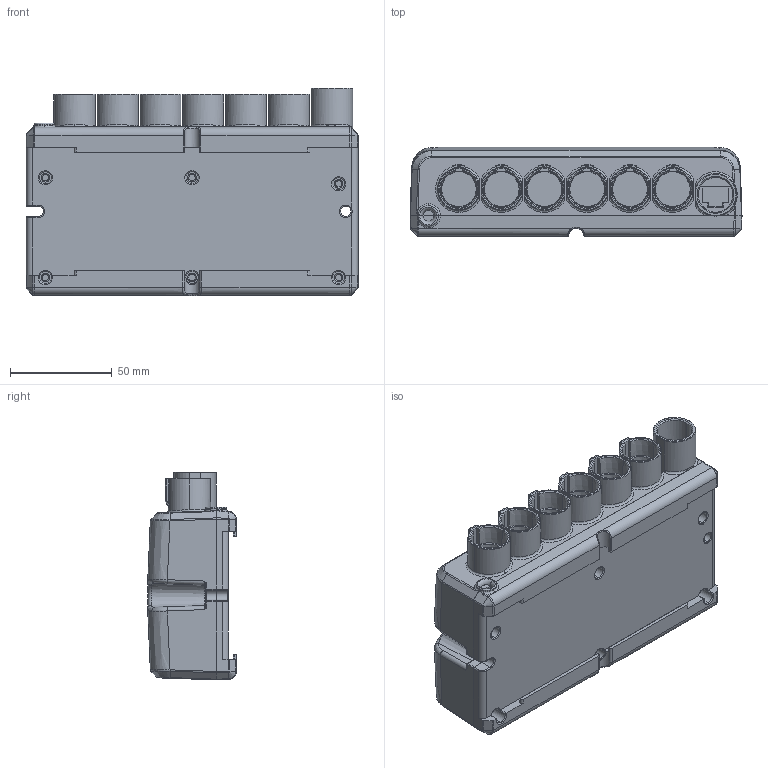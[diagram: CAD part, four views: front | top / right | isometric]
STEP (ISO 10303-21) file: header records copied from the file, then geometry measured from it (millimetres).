
FILE_DESCRIPTION (( 'STEP AP203' ), '1' );
FILE_NAME ('TC6.STEP', '2014-01-16T02:44:20', ( 'stanley' ), ( '' ), 'SwSTEP 2.0', 'SolidWorks 2010', '' );
FILE_SCHEMA (( 'CONFIG_CONTROL_DESIGN' ));
Length unit declared in the file: millimetre
Products named in the file (1): TC6
Bounding box: 163 x 43.63 x 102 mm (x, y, z)
Volume: 528906.5 mm3; surface area: 89407 mm2
Topology: 2 solids, 2 shells, 633 faces, 1529 edges, 906 vertices
Faces by surface type: cylinder 182, plane 146, bspline 112, torus 91, cone 88, sphere 14
Entity records: 34370 total; most frequent: CARTESIAN_POINT 20445, ORIENTED_EDGE 3038, DIRECTION 2739, EDGE_CURVE 1519, AXIS2_PLACEMENT_3D 1105, VERTEX_POINT 906, EDGE_LOOP 665, ADVANCED_FACE 633
